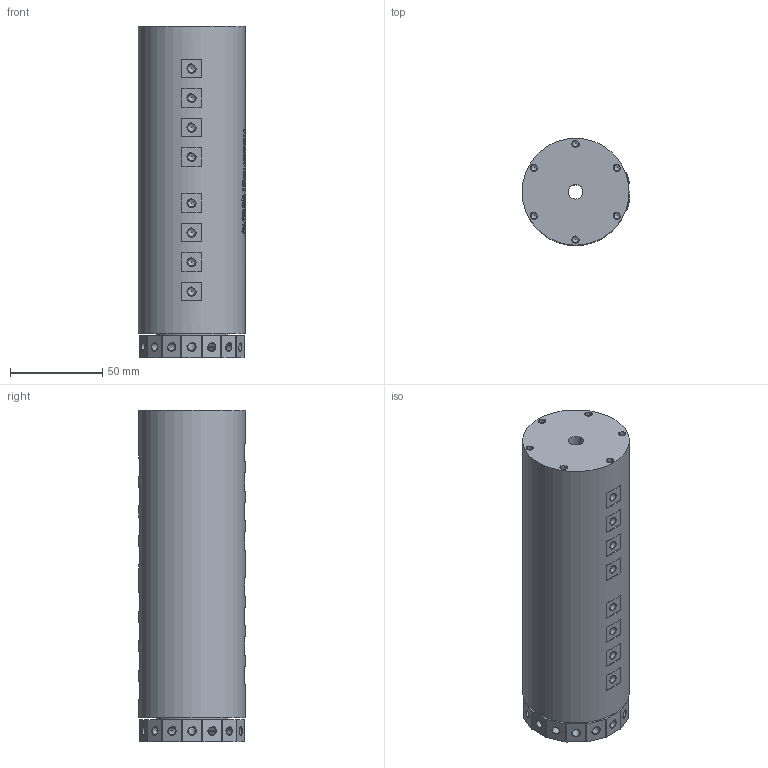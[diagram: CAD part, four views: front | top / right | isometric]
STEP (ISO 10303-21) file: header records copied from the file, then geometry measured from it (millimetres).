
FILE_DESCRIPTION(/* description */ (''),/* implementation_level */ '2;1');
FILE_NAME(/* name */ 'HQ16005.stp',/* time_stamp */ '2025-01-20T15:08:43+08:00',/* author */ (''),/* organization */ (''),/* preprocessor_version */ 'ST-DEVELOPER v16.7',/* originating_system */ 'SIEMENS PLM Software NX 12.0',/* authorisation */ '');
FILE_SCHEMA (('AUTOMOTIVE_DESIGN { 1 0 10303 214 3 1 1 1 }'));
Products named in the file (1): HX056BE06534db8k
Bounding box: 58.46 x 58 x 180 mm (x, y, z)
Volume: 453857.7 mm3; surface area: 65371.4 mm2
Topology: 1 solids, 1 shells, 907 faces, 2683 edges, 1779 vertices
Faces by surface type: plane 486, cylinder 225, extrusion 93, cone 74, bspline 29
Full cylindrical faces by diameter (mm): 3.3 x10, 4.2 x64, 8 x1, 39 x1, 58 x1
Entity records: 51197 total; most frequent: CARTESIAN_POINT 29201, ORIENTED_EDGE 4608, DIRECTION 4025, EDGE_CURVE 2304, VERTEX_POINT 1635, AXIS2_PLACEMENT_3D 1498, EDGE_LOOP 1283, VECTOR 1029
